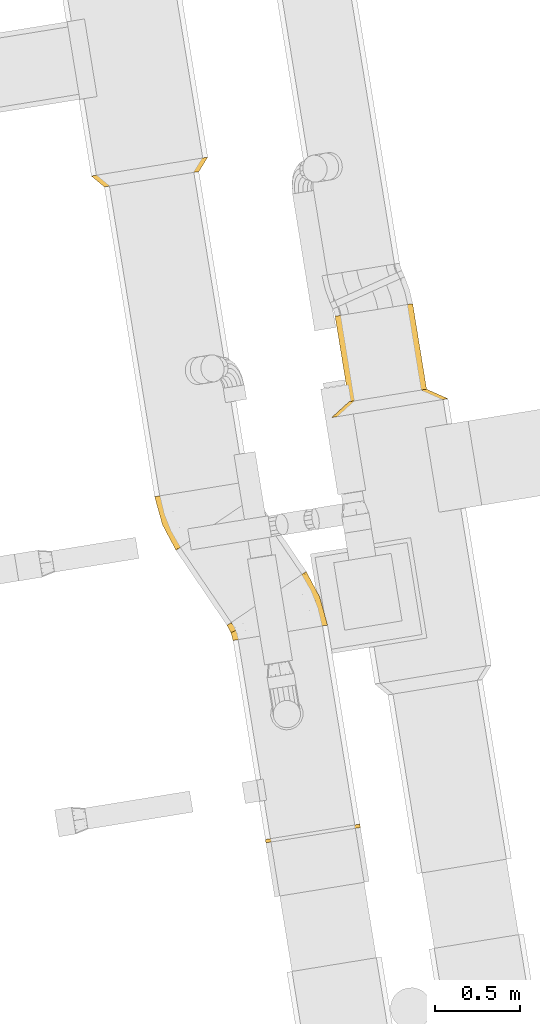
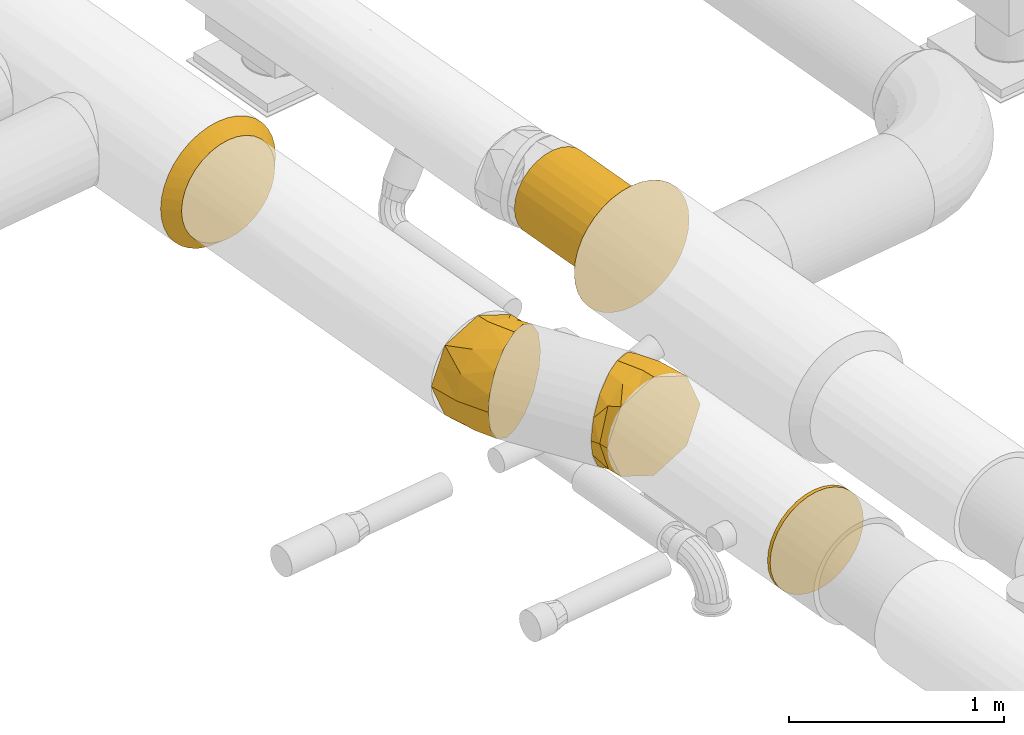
# One storey, part 9 of 39: 6 coverings.
"""IFC2X3 building model written with IfcOpenShell, lengths in millimetres."""

from ifc_helpers import new_model, entity, si_unit, converted_unit, derived_unit, direction, frame, origin, origin_with_axes, place, context, subcontext, project, spatial, faceted_brep, type_object, element, save


model = new_model("IFC2X3")

# Units and contexts
plan_context = context("Plan", 3, precision=1e-05, world=origin_with_axes())
model_context = context("Model", 3, precision=0.01, world=origin(), true_north=direction((6.12323399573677e-17, 1.0)))
body_context = subcontext(model_context, "Body", "Model", "MODEL_VIEW")
ifc_project = project(units=[converted_unit("PLANEANGLEUNIT", "DEGREE", entity("IfcPositiveLengthMeasure", 0.0174532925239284), si_unit("PLANEANGLEUNIT", "RADIAN"), dimensions=[0, 0, 0, 0, 0, 0, 0]), si_unit("AREAUNIT", "SQUARE_METRE"), si_unit("LENGTHUNIT", "METRE", prefix="MILLI"), si_unit("MASSUNIT", "GRAM", prefix="KILO"), si_unit("POWERUNIT", "WATT"), si_unit("PRESSUREUNIT", "PASCAL", prefix="KILO"), si_unit("FORCEUNIT", "NEWTON", prefix="KILO"), si_unit("ELECTRICVOLTAGEUNIT", "VOLT"), si_unit("ELECTRICCURRENTUNIT", "AMPERE"), si_unit("THERMODYNAMICTEMPERATUREUNIT", "DEGREE_CELSIUS"), si_unit("TIMEUNIT", "SECOND"), si_unit("VOLUMEUNIT", "CUBIC_METRE"), derived_unit("LINEARVELOCITYUNIT", [(si_unit("LENGTHUNIT", "METRE"), 1), (si_unit("TIMEUNIT", "SECOND"), -1)]), derived_unit("VOLUMETRICFLOWRATEUNIT", [(si_unit("VOLUMEUNIT", "CUBIC_METRE"), 1), (si_unit("TIMEUNIT", "SECOND"), -1)]), derived_unit("THERMALTRANSMITTANCEUNIT", [(si_unit("POWERUNIT", "WATT"), 1), (si_unit("THERMODYNAMICTEMPERATUREUNIT", "KELVIN"), -1), (si_unit("AREAUNIT", "SQUARE_METRE"), -1)]), derived_unit("SOUNDPRESSUREUNIT", [(si_unit("PRESSUREUNIT", "PASCAL"), 1)])], contexts=[model_context, plan_context])

# Site, building, storey
site_placement = place(None, frame((-0.00071070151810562, 0.00438415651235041, 0.0), z_axis=(0.0, 0.0, 1.0), x_axis=(-0.160236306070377, 0.987078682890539, 0.0)))
site = spatial("IfcSite", under=ifc_project, at=site_placement, Name="Default", CompositionType="ELEMENT")
building_placement = place(site_placement, origin_with_axes())
building = spatial("IfcBuilding", under=site, at=building_placement, CompositionType="ELEMENT")
storey_placement = place(building_placement, frame((0.0, 0.0, 58999.9999999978), z_axis=(0.0, 0.0, 1.0), x_axis=(1.0, 0.0, 0.0)))
storey = spatial("IfcBuildingStorey", under=building, at=storey_placement, Name="Nivå F", CompositionType="ELEMENT", Elevation=58999.9999999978)

# Coverings
covering_type_1 = type_object("IfcCoveringType", Name="Duct Insulation:MuT030", PredefinedType="INSULATION")
covering_1_placement = place(storey_placement, frame((773703.610474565, -503686.603887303, 2783.40426923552), z_axis=(0.0, 0.0, 1.0), x_axis=(1.0, 0.0, 0.0)))
element("IfcCovering", 1, at=covering_1_placement, inside=storey, type_object=covering_type_1, Name="Duct Insulation:MuT030", ObjectType="Duct Insulation:MuT030", PredefinedType="INSULATION", context=body_context, shape_type="Brep", body=[
    faceted_brep([(75.0, 346.595272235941, 576.595730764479), (75.0, 295.415457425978, 570.829150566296), (75.0, 246.802012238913, 553.818570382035), (75.0, 203.192617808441, 526.41697173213), (75.0, 166.774031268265, 489.998385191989), (75.0, 139.372432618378, 446.388990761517), (75.0, 122.361852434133, 397.775545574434), (75.0, 116.595272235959, 346.59573076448), (75.0, 122.361852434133, 295.415915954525), (75.0, 139.372432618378, 246.802470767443), (75.0, 166.774031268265, 203.19307633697), (75.0, 203.192617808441, 166.774489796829), (75.0, 246.802012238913, 139.372891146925), (75.0, 295.415457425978, 122.362310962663), (75.0, 346.595272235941, 116.59573076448), (75.0, 397.775087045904, 122.362310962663), (75.0, 446.38853223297, 139.372891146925), (75.0, 489.997926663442, 166.774489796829), (75.0, 526.416513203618, 203.19307633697), (75.0, 553.818111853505, 246.802470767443), (75.0, 570.828692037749, 295.415915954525), (75.0, 576.595272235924, 346.59573076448), (75.0, 570.828692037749, 397.775545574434), (75.0, 553.818111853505, 446.388990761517), (75.0, 526.416513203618, 489.998385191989), (75.0, 489.997926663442, 526.41697173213), (75.0, 446.38853223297, 553.818570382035), (75.0, 397.775087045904, 570.829150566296), (0.0, 464.592221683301, 670.789226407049), (0.0, 519.095272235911, 645.374036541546), (0.0, 568.356997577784, 610.880605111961), (0.0, 610.880605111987, 568.356997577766), (0.0, 645.374036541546, 519.095272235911), (0.0, 670.789226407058, 464.592221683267), (0.0, 686.353947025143, 406.503893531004), (0.0, 691.59527223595, 346.595272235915), (0.0, 686.353947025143, 286.686650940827), (0.0, 670.789226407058, 228.598322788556), (0.0, 645.374036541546, 174.095272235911), (0.0, 610.880605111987, 124.833546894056), (0.0, 568.356997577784, 82.3099393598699), (0.0, 519.095272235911, 47.8165079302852), (0.0, 464.592221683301, 22.4013180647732), (0.0, 406.503893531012, 6.83659744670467), (0.0, 346.595272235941, 1.5952722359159), (0.0, 286.686650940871, 6.83659744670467), (0.0, 228.598322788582, 22.4013180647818), (0.0, 174.095272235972, 47.8165079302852), (0.0, 124.833546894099, 82.3099393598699), (0.0, 82.3099393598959, 124.833546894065), (0.0, 47.8165079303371, 174.09527223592), (0.0, 22.4013180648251, 228.598322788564), (0.0, 6.83659744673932, 286.686650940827), (0.0, 1.59527223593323, 346.595272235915), (0.0, 6.83659744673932, 406.503893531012), (0.0, 22.4013180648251, 464.592221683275), (0.0, 47.8165079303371, 519.09527223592), (0.0, 82.3099393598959, 568.356997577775), (0.0, 124.833546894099, 610.880605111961), (0.0, 174.095272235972, 645.374036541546), (0.0, 228.598322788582, 670.789226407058), (0.0, 286.686650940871, 686.353947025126), (0.0, 346.595272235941, 691.595272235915), (0.0, 406.503893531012, 686.353947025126), (34.0057165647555, 53.7373709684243, 346.595480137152), (35.9502469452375, 66.5962773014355, 271.569995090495), (38.7397940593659, 144.646300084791, 144.646526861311), (39.1556552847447, 107.644195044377, 191.336561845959), (34.0057102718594, 346.595272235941, 53.7375692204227), (35.9502546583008, 271.569773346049, 66.5965098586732), (39.1556623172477, 191.336346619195, 107.644431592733), (35.9502469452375, 421.62076917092, 66.5964970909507), (38.7397940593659, 548.544254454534, 144.646536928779), (39.1556552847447, 501.854222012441, 107.644434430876), (34.0057102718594, 639.453183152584, 346.595480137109), (35.9502546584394, 626.594254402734, 271.569993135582), (39.1556623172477, 585.546352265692, 191.336586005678), (35.9502469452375, 626.594267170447, 421.620988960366), (38.7397940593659, 548.544244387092, 548.544491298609), (39.1556552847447, 585.546349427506, 501.854461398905), (34.0057763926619, 346.595272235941, 639.453289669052), (35.9502546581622, 421.620771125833, 626.594474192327), (39.1556623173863, 501.854197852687, 585.546591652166), (35.9502469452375, 271.569775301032, 626.594486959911), (38.7397940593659, 144.64629001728, 548.544481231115), (39.1556552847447, 191.336322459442, 585.546588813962), (35.9502546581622, 66.5962900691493, 421.620990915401), (39.1556623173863, 107.64419220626, 501.854437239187)], [[[0, 1, 2, 3, 4, 5, 6, 7, 8, 9, 10, 11, 12, 13, 14, 15, 16, 17, 18, 19, 20, 21, 22, 23, 24, 25, 26, 27]], [[28, 29, 30, 31, 32, 33, 34, 35, 36, 37, 38, 39, 40, 41, 42, 43, 44, 45, 46, 47, 48, 49, 50, 51, 52, 53, 54, 55, 56, 57, 58, 59, 60, 61, 62, 63]], [[64, 52, 65]], [[52, 51, 65]], [[66, 67, 49]], [[66, 10, 67]], [[45, 44, 68]], [[11, 10, 66]], [[64, 65, 8]], [[68, 13, 69]], [[51, 67, 65]], [[49, 67, 50]], [[64, 53, 52]], [[9, 8, 65]], [[64, 8, 7]], [[12, 69, 13]], [[48, 66, 49]], [[65, 67, 9]], [[46, 69, 70]], [[70, 47, 46]], [[46, 45, 69]], [[10, 9, 67]], [[68, 14, 13]], [[48, 47, 70]], [[66, 48, 70]], [[11, 66, 70]], [[70, 69, 12]], [[51, 50, 67]], [[12, 11, 70]], [[68, 69, 45]], [[68, 43, 71]], [[43, 42, 71]], [[72, 73, 40]], [[72, 17, 73]], [[36, 35, 74]], [[18, 17, 72]], [[68, 71, 15]], [[74, 20, 75]], [[42, 73, 71]], [[40, 73, 41]], [[68, 44, 43]], [[16, 15, 71]], [[68, 15, 14]], [[19, 75, 20]], [[39, 72, 40]], [[71, 73, 16]], [[37, 75, 76]], [[76, 38, 37]], [[37, 36, 75]], [[17, 16, 73]], [[74, 21, 20]], [[39, 38, 76]], [[72, 39, 76]], [[18, 72, 76]], [[76, 75, 19]], [[42, 41, 73]], [[19, 18, 76]], [[74, 75, 36]], [[74, 34, 77]], [[34, 33, 77]], [[78, 79, 31]], [[78, 24, 79]], [[63, 62, 80]], [[25, 24, 78]], [[74, 77, 22]], [[80, 27, 81]], [[33, 79, 77]], [[31, 79, 32]], [[74, 35, 34]], [[23, 22, 77]], [[74, 22, 21]], [[26, 81, 27]], [[30, 78, 31]], [[77, 79, 23]], [[28, 81, 82]], [[82, 29, 28]], [[28, 63, 81]], [[24, 23, 79]], [[80, 0, 27]], [[30, 29, 82]], [[78, 30, 82]], [[25, 78, 82]], [[82, 81, 26]], [[33, 32, 79]], [[26, 25, 82]], [[80, 81, 63]], [[80, 61, 83]], [[61, 60, 83]], [[84, 85, 58]], [[84, 3, 85]], [[54, 53, 64]], [[4, 3, 84]], [[80, 83, 1]], [[64, 6, 86]], [[60, 85, 83]], [[58, 85, 59]], [[80, 62, 61]], [[2, 1, 83]], [[80, 1, 0]], [[5, 86, 6]], [[57, 84, 58]], [[83, 85, 2]], [[55, 86, 87]], [[87, 56, 55]], [[55, 54, 86]], [[3, 2, 85]], [[64, 7, 6]], [[57, 56, 87]], [[84, 57, 87]], [[4, 84, 87]], [[87, 86, 5]], [[60, 59, 85]], [[5, 4, 87]], [[64, 86, 54]]]),
])
covering_2_placement = place(storey_placement, frame((773778.610474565, -503571.603887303, 2898.40472776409), z_axis=(0.0, 0.0, 1.0), x_axis=(1.0, 0.0, 0.0)))
element("IfcCovering", 2, at=covering_2_placement, inside=storey, type_object=covering_type_1, Name="Duct Insulation:MuT030", ObjectType="Duct Insulation:MuT030", PredefinedType="INSULATION", context=body_context, shape_type="Brep", body=[
    faceted_brep([(0.0, 24.3724326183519, 131.802012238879), (0.0, 7.36185243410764, 180.415457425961), (0.0, 1.59527223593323, 231.595272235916), (0.0, 7.36185243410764, 282.77508704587), (0.0, 24.3724326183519, 331.388532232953), (0.0, 51.774031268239, 374.997926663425), (0.0, 88.1926178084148, 411.416513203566), (0.0, 131.802012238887, 438.818111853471), (0.0, 180.415457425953, 455.828692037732), (0.0, 231.595272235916, 461.595272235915), (0.0, 282.775087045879, 455.828692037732), (0.0, 331.388532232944, 438.818111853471), (0.0, 374.997926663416, 411.416513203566), (0.0, 411.416513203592, 374.997926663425), (0.0, 438.818111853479, 331.388532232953), (0.0, 455.828692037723, 282.77508704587), (0.0, 461.595272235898, 231.595272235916), (0.0, 455.828692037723, 180.415457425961), (0.0, 438.818111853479, 131.802012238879), (0.0, 411.416513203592, 88.1926178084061), (0.0, 374.997926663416, 51.774031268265), (0.0, 331.388532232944, 24.3724326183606), (0.0, 282.775087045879, 7.36185243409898), (0.0, 231.595272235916, 1.5952722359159), (0.0, 180.415457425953, 7.36185243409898), (0.0, 131.802012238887, 24.3724326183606), (0.0, 88.1926178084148, 51.774031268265), (0.0, 51.774031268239, 88.1926178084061), (506.653576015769, 88.1926178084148, 51.774031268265), (506.653576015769, 131.802012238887, 24.3724326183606), (506.653576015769, 180.415457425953, 7.36185243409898), (506.653576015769, 231.595272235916, 1.5952722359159), (506.653576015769, 282.775087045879, 7.36185243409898), (506.653576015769, 331.388532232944, 24.3724326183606), (506.653576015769, 374.997926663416, 51.774031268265), (506.653576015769, 411.416513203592, 88.1926178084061), (506.653576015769, 438.818111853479, 131.802012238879), (506.653576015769, 455.828692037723, 180.415457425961), (506.653576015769, 461.595272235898, 231.595272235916), (506.653576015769, 455.828692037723, 282.77508704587), (506.653576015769, 438.818111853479, 331.388532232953), (506.653576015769, 411.416513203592, 374.997926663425), (506.653576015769, 374.997926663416, 411.416513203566), (506.653576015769, 331.388532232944, 438.818111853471), (506.653576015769, 282.775087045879, 455.828692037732), (506.653576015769, 231.595272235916, 461.595272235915), (506.653576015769, 180.415457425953, 455.828692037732), (506.653576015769, 131.802012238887, 438.818111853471), (506.653576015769, 88.1926178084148, 411.416513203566), (506.653576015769, 51.774031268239, 374.997926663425), (506.653576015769, 24.3724326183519, 331.388532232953), (506.653576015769, 7.36185243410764, 282.77508704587), (506.653576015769, 1.59527223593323, 231.595272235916), (506.653576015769, 7.36185243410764, 180.415457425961), (506.653576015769, 24.3724326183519, 131.802012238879), (506.653576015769, 51.774031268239, 88.1926178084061)], [[[0, 1, 2, 3, 4, 5, 6, 7, 8, 9, 10, 11, 12, 13, 14, 15, 16, 17, 18, 19, 20, 21, 22, 23, 24, 25, 26, 27]], [[28, 29, 30, 31, 32, 33, 34, 35, 36, 37, 38, 39, 40, 41, 42, 43, 44, 45, 46, 47, 48, 49, 50, 51, 52, 53, 54, 55]], [[38, 37, 17, 16]], [[37, 36, 18, 17]], [[19, 18, 36, 35]], [[35, 34, 20, 19]], [[21, 20, 34, 33]], [[22, 21, 33, 32]], [[23, 22, 32, 31]], [[24, 23, 31, 30]], [[25, 24, 30, 29]], [[26, 25, 29, 28]], [[28, 55, 27, 26]], [[0, 27, 55, 54]], [[1, 0, 54, 53]], [[2, 1, 53, 52]], [[3, 2, 52, 51]], [[4, 3, 51, 50]], [[5, 4, 50, 49]], [[49, 48, 6, 5]], [[7, 6, 48, 47]], [[8, 7, 47, 46]], [[9, 8, 46, 45]], [[10, 9, 45, 44]], [[11, 10, 44, 43]], [[12, 11, 43, 42]], [[42, 41, 13, 12]], [[14, 13, 41, 40]], [[15, 14, 40, 39]], [[16, 15, 39, 38]]]),
])
covering_type_2 = type_object("IfcCoveringType", Name="Duct Insulation:EI 60-30", PredefinedType="INSULATION")
covering_3_placement = place(storey_placement, frame((771309.369644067, -502778.429977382, 2848.40472776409), z_axis=(0.0, 0.0, 1.0), x_axis=(1.0, 0.0, 0.0)))
element("IfcCovering", 3, at=covering_3_placement, inside=storey, type_object=covering_type_2, Name="Duct Insulation:EI 60-30", ObjectType="Duct Insulation:EI 60-30", PredefinedType="INSULATION", context=body_context, shape_type="Brep", body=[
    faceted_brep([(20.0, 388.746633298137, 22.9090031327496), (20.0, 437.154937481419, 48.783780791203), (20.0, 479.585170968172, 83.6053735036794), (20.0, 514.406763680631, 126.035606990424), (20.0, 540.281541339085, 174.443911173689), (20.0, 556.215150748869, 226.969982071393), (20.0, 561.595272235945, 281.595272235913), (20.0, 556.215150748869, 336.220562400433), (20.0, 540.281541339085, 388.746633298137), (20.0, 514.406763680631, 437.154937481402), (20.0, 479.585170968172, 479.585170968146), (20.0, 437.154937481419, 514.406763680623), (20.0, 388.746633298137, 540.281541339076), (20.0, 336.220562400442, 556.215150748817), (20.0, 281.595272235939, 561.59527223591), (20.0, 226.969982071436, 556.215150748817), (20.0, 174.443911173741, 540.281541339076), (20.0, 126.035606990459, 514.406763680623), (20.0, 83.6053735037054, 479.585170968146), (20.0, 48.7837807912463, 437.154937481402), (20.0, 22.9090031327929, 388.746633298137), (20.0, 6.97539372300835, 336.220562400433), (20.0, 1.59527223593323, 281.595272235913), (20.0, 6.97539372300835, 226.969982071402), (20.0, 22.9090031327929, 174.443911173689), (20.0, 48.7837807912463, 126.035606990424), (20.0, 83.6053735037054, 83.6053735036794), (20.0, 126.035606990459, 48.783780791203), (20.0, 174.443911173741, 22.9090031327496), (20.0, 226.969982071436, 6.97539372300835), (20.0, 281.595272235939, 1.5952722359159), (20.0, 336.220562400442, 6.97539372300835), (0.0, 388.746633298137, 540.281541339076), (0.0, 437.154937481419, 514.406763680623), (0.0, 479.585170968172, 479.585170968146), (0.0, 514.406763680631, 437.154937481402), (0.0, 540.281541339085, 388.746633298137), (0.0, 556.215150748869, 336.220562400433), (0.0, 561.595272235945, 281.595272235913), (0.0, 556.215150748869, 226.969982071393), (0.0, 540.281541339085, 174.443911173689), (0.0, 514.406763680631, 126.035606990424), (0.0, 479.585170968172, 83.6053735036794), (0.0, 437.154937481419, 48.783780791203), (0.0, 388.746633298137, 22.9090031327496), (0.0, 336.220562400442, 6.97539372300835), (0.0, 281.595272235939, 1.5952722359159), (0.0, 226.969982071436, 6.97539372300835), (0.0, 174.443911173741, 22.9090031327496), (0.0, 126.035606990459, 48.783780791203), (0.0, 83.6053735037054, 83.6053735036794), (0.0, 48.7837807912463, 126.035606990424), (0.0, 22.9090031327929, 174.443911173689), (0.0, 6.97539372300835, 226.969982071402), (0.0, 1.59527223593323, 281.595272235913), (0.0, 6.97539372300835, 336.220562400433), (0.0, 22.9090031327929, 388.746633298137), (0.0, 48.7837807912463, 437.154937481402), (0.0, 83.6053735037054, 479.585170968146), (0.0, 126.035606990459, 514.406763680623), (0.0, 174.443911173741, 540.281541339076), (0.0, 226.969982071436, 556.215150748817), (0.0, 281.595272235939, 561.59527223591), (0.0, 336.220562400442, 556.215150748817)], [[[0, 1, 2, 3, 4, 5, 6, 7, 8, 9, 10, 11, 12, 13, 14, 15, 16, 17, 18, 19, 20, 21, 22, 23, 24, 25, 26, 27, 28, 29, 30, 31]], [[32, 33, 34, 35, 36, 37, 38, 39, 40, 41, 42, 43, 44, 45, 46, 47, 48, 49, 50, 51, 52, 53, 54, 55, 56, 57, 58, 59, 60, 61, 62, 63]], [[7, 6, 38, 37]], [[37, 36, 8, 7]], [[35, 9, 8, 36]], [[35, 34, 10, 9]], [[11, 33, 32, 12]], [[12, 32, 63, 13]], [[13, 63, 62, 14]], [[34, 33, 11, 10]], [[15, 14, 62, 61]], [[61, 60, 16, 15]], [[59, 17, 16, 60]], [[59, 58, 18, 17]], [[20, 56, 55, 21]], [[21, 55, 54, 22]], [[19, 18, 58, 57]], [[57, 56, 20, 19]], [[23, 22, 54, 53]], [[53, 52, 24, 23]], [[51, 25, 24, 52]], [[25, 51, 50, 26]], [[48, 47, 29, 28]], [[29, 47, 46, 30]], [[27, 26, 50, 49]], [[49, 48, 28, 27]], [[31, 30, 46, 45]], [[45, 44, 0, 31]], [[43, 1, 0, 44]], [[1, 43, 42, 2]], [[40, 39, 5, 4]], [[5, 39, 38, 6]], [[3, 41, 40, 4]], [[41, 3, 2, 42]]]),
])
covering_4_placement = place(storey_placement, frame((772507.276642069, -502778.429977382, 2848.40472776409), z_axis=(0.0, 0.0, 1.0), x_axis=(1.0, 0.0, 0.0)))
element("IfcCovering", 4, at=covering_4_placement, inside=storey, type_object=covering_type_2, Name="Duct Insulation:EI 60-30", ObjectType="Duct Insulation:EI 60-30", PredefinedType="INSULATION", context=body_context, shape_type="Brep", body=[
    faceted_brep([(94.5712898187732, 582.207559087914, 281.595272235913), (104.802207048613, 560.267286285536, 395.484094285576), (133.725641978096, 498.24077991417, 489.679118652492), (176.340060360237, 406.853864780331, 547.89309586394), (212.90440310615, 328.441378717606, 561.59527223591), (261.03589911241, 225.223052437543, 537.386859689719), (300.844436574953, 139.853368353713, 468.948182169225), (325.446726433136, 87.0935874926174, 368.113877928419), (331.237516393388, 74.6751983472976, 281.595272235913), (321.006599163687, 96.6154711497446, 167.70645018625), (292.083164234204, 158.641977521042, 73.5114258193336), (249.468745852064, 250.02889265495, 15.2974486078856), (212.90440310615, 328.441378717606, 1.5952722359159), (164.772907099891, 431.659704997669, 25.8036847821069), (124.964369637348, 517.029389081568, 94.2423623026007), (100.362079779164, 569.789169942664, 195.076666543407), (1.59527223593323, 83.6053735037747, 479.585170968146), (1.59527223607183, 192.341149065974, 524.625003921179), (1.59527223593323, 281.595272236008, 561.59527223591), (1.59527223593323, 380.59022160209, 520.590221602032), (1.59527223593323, 479.585170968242, 479.585170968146), (1.59527223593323, 509.851643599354, 406.515442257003), (1.59527223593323, 561.595272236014, 281.595272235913), (1.59527223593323, 509.851643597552, 156.675102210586), (1.59527223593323, 479.585170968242, 83.6053735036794), (1.59527223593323, 380.59022160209, 42.6003228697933), (1.59527223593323, 281.595272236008, 1.5952722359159), (1.59527223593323, 192.34114906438, 38.5655405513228), (1.59527223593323, 83.6053735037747, 83.6053735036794), (1.59527223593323, 42.6003228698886, 182.600322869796), (1.59527223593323, 1.59527223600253, 281.595272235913), (1.59527223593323, 42.6003228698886, 380.59022160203), (170.418171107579, 20.0843866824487, 281.595272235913), (157.317596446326, 51.3682686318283, 414.130284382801), (139.713170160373, 133.885836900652, 509.779038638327), (74.0612018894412, 286.874452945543, 561.59527223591), (132.035441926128, 304.230801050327, 561.59527223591), (79.0057524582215, 404.271907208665, 536.971202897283), (65.1738682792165, 504.421567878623, 460.213903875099), (49.2119873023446, 566.81015066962, 281.595272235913), (61.2711108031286, 504.119595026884, 103.644905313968), (67.4867023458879, 406.03428430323, 28.0016962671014), (132.035441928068, 304.230801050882, 1.5952722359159), (74.0612018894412, 286.874452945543, 1.5952722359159), (148.121027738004, 147.950465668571, 45.3958700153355), (164.547701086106, 68.262486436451, 124.397227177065)], [[[0, 1, 2, 3, 4, 5, 6, 7, 8, 9, 10, 11, 12, 13, 14, 15]], [[16, 17, 18, 19, 20, 21, 22, 23, 24, 25, 26, 27, 28, 29, 30, 31]], [[31, 32, 33]], [[17, 34, 35]], [[35, 18, 17]], [[34, 17, 16]], [[5, 35, 34]], [[16, 33, 34]], [[33, 7, 6]], [[32, 7, 33]], [[34, 6, 5]], [[5, 4, 36, 35]], [[31, 30, 32]], [[33, 16, 31]], [[8, 7, 32]], [[6, 34, 33]], [[19, 35, 37]], [[20, 37, 38]], [[39, 22, 21]], [[38, 21, 20]], [[38, 37, 2]], [[2, 1, 38]], [[37, 36, 3]], [[37, 20, 19]], [[36, 4, 3]], [[3, 2, 37]], [[38, 1, 39]], [[1, 0, 39]], [[35, 19, 18]], [[21, 38, 39]], [[37, 35, 36]], [[14, 40, 15]], [[41, 13, 42]], [[43, 25, 41]], [[13, 12, 42]], [[24, 40, 41]], [[41, 14, 13]], [[39, 23, 22]], [[0, 15, 39]], [[40, 39, 15]], [[40, 23, 39]], [[14, 41, 40]], [[43, 41, 42]], [[25, 24, 41]], [[24, 23, 40]], [[25, 43, 26]], [[10, 44, 11]], [[9, 32, 45]], [[32, 29, 45]], [[27, 44, 28]], [[44, 43, 11]], [[43, 27, 26]], [[27, 43, 44]], [[29, 28, 45]], [[9, 8, 32]], [[28, 44, 45]], [[10, 45, 44]], [[10, 9, 45]], [[29, 32, 30]], [[11, 43, 42, 12]]]),
])
covering_5_placement = place(storey_placement, frame((773081.282261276, -502481.042264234, 2848.43888074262), z_axis=(0.0, 0.0, 1.0), x_axis=(1.0, 0.0, 0.0)))
element("IfcCovering", 5, at=covering_5_placement, inside=storey, type_object=covering_type_2, Name="Duct Insulation:EI 60-30", ObjectType="Duct Insulation:EI 60-30", PredefinedType="INSULATION", context=body_context, shape_type="Brep", body=[
    faceted_brep([(238.261498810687, 1.59527223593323, 281.595272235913), (228.030581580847, 23.5355450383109, 395.484094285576), (199.107146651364, 85.5620514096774, 489.679118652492), (156.492728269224, 176.948966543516, 547.89309586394), (119.92838552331, 255.361452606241, 561.59527223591), (71.7968895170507, 358.579778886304, 537.386859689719), (31.9883520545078, 443.949462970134, 468.948182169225), (7.3860621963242, 496.70924383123, 368.113877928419), (1.59527223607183, 509.12763297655, 281.595272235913), (11.8261894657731, 487.187360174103, 167.70645018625), (40.7496243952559, 425.160853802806, 73.5114258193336), (83.3640427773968, 333.773938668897, 15.2974486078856), (119.92838552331, 255.361452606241, 1.5952722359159), (168.05988152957, 152.143126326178, 25.8036847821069), (207.868418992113, 66.7734422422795, 94.2423623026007), (232.470708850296, 14.0136613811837, 195.076666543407), (331.237516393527, 500.197457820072, 479.585170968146), (331.237516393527, 391.461682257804, 524.625003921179), (331.237516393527, 302.207559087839, 561.59527223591), (331.237516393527, 203.212609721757, 520.590221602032), (331.237516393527, 104.217660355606, 479.585170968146), (331.237516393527, 73.9511877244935, 406.515442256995), (331.237516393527, 22.2075590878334, 281.595272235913), (331.237516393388, 73.9511877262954, 156.675102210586), (331.237516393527, 104.217660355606, 83.6053735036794), (331.237516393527, 203.212609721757, 42.6003228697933), (331.237516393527, 302.207559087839, 1.5952722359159), (331.237516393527, 391.461682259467, 38.5655405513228), (331.237516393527, 500.197457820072, 83.6053735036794), (331.237516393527, 541.202508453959, 182.600322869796), (331.237516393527, 582.207559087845, 281.595272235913), (331.237516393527, 541.202508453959, 380.59022160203), (162.414617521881, 563.718444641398, 281.595272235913), (175.515192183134, 532.434562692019, 414.130284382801), (193.119618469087, 449.916994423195, 509.779038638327), (258.771586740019, 296.928378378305, 561.59527223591), (200.797346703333, 279.57203027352, 561.59527223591), (253.827036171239, 179.530924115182, 536.971202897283), (267.658920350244, 79.3812634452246, 460.213903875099), (283.620801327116, 16.9926806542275, 281.595272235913), (271.561677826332, 79.6832362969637, 103.644905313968), (265.346086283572, 177.768547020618, 28.0016962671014), (200.797346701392, 279.572030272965, 1.5952722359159), (258.771586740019, 296.928378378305, 1.5952722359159), (184.711760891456, 435.852365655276, 45.3958700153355), (168.285087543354, 515.540344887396, 124.397227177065)], [[[0, 1, 2, 3, 4, 5, 6, 7, 8, 9, 10, 11, 12, 13, 14, 15]], [[16, 17, 18, 19, 20, 21, 22, 23, 24, 25, 26, 27, 28, 29, 30, 31]], [[31, 32, 33]], [[17, 34, 35]], [[35, 18, 17]], [[34, 17, 16]], [[5, 35, 34]], [[16, 33, 34]], [[33, 7, 6]], [[32, 7, 33]], [[34, 6, 5]], [[5, 4, 36, 35]], [[31, 30, 32]], [[33, 16, 31]], [[8, 7, 32]], [[6, 34, 33]], [[19, 35, 37]], [[20, 37, 38]], [[39, 22, 21]], [[38, 21, 20]], [[38, 37, 2]], [[2, 1, 38]], [[37, 36, 3]], [[37, 20, 19]], [[36, 4, 3]], [[3, 2, 37]], [[38, 1, 39]], [[1, 0, 39]], [[35, 19, 18]], [[21, 38, 39]], [[37, 35, 36]], [[14, 40, 15]], [[41, 13, 42]], [[43, 25, 41]], [[13, 12, 42]], [[24, 40, 41]], [[41, 14, 13]], [[39, 23, 22]], [[0, 15, 39]], [[40, 39, 15]], [[40, 23, 39]], [[14, 41, 40]], [[43, 41, 42]], [[25, 24, 41]], [[24, 23, 40]], [[25, 43, 26]], [[10, 44, 11]], [[9, 32, 45]], [[32, 29, 45]], [[27, 44, 28]], [[44, 43, 11]], [[43, 27, 26]], [[27, 43, 44]], [[29, 28, 45]], [[9, 8, 32]], [[28, 44, 45]], [[10, 45, 44]], [[10, 9, 45]], [[29, 32, 30]], [[11, 43, 42, 12]]]),
])
covering_6_placement = place(storey_placement, frame((775248.610474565, -502525.429977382, 2783.43888074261), z_axis=(0.0, 0.0, 1.0), x_axis=(1.0, 0.0, 0.0)))
element("IfcCovering", 6, at=covering_6_placement, inside=storey, type_object=covering_type_2, Name="Duct Insulation:EI 60-30", ObjectType="Duct Insulation:EI 60-30", PredefinedType="INSULATION", context=body_context, shape_type="Brep", body=[
    faceted_brep([(75.0, 406.503893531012, 686.353947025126), (75.0, 346.595272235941, 691.595272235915), (75.0, 286.686650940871, 686.353947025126), (75.0, 228.598322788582, 670.789226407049), (75.0, 174.095272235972, 645.374036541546), (75.0, 124.833546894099, 610.880605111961), (75.0, 82.3099393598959, 568.356997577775), (75.0, 47.8165079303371, 519.09527223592), (75.0, 22.4013180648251, 464.592221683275), (75.0, 6.83659744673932, 406.503893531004), (75.0, 1.59527223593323, 346.595272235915), (75.0, 6.83659744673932, 286.686650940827), (75.0, 22.4013180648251, 228.598322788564), (75.0, 47.8165079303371, 174.09527223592), (75.0, 82.3099393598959, 124.833546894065), (75.0, 124.833546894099, 82.3099393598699), (75.0, 174.095272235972, 47.8165079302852), (75.0, 228.598322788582, 22.4013180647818), (75.0, 286.686650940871, 6.83659744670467), (75.0, 346.595272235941, 1.5952722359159), (75.0, 406.503893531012, 6.83659744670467), (75.0, 464.592221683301, 22.4013180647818), (75.0, 519.095272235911, 47.8165079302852), (75.0, 568.356997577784, 82.3099393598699), (75.0, 610.880605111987, 124.833546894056), (75.0, 645.374036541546, 174.09527223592), (75.0, 670.789226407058, 228.598322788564), (75.0, 686.353947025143, 286.686650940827), (75.0, 691.59527223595, 346.595272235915), (75.0, 686.353947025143, 406.503893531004), (75.0, 670.789226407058, 464.592221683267), (75.0, 645.374036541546, 519.095272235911), (75.0, 610.880605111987, 568.356997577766), (75.0, 568.356997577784, 610.880605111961), (75.0, 519.095272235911, 645.374036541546), (75.0, 464.592221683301, 670.789226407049), (0.0, 453.746633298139, 605.28154133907), (0.0, 502.154937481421, 579.406763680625), (0.0, 544.585170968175, 544.585170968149), (0.0, 579.406763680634, 502.154937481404), (0.0, 605.281541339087, 453.746633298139), (0.0, 621.215150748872, 401.220562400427), (0.0, 626.595272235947, 346.595272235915), (0.0, 621.215150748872, 291.969982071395), (0.0, 605.281541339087, 239.443911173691), (0.0, 579.406763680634, 191.035606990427), (0.0, 544.585170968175, 148.605373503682), (0.0, 502.154937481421, 113.783780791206), (0.0, 453.746633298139, 87.9090031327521), (0.0, 401.220562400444, 71.9753937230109), (0.0, 346.595272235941, 66.5952722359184), (0.0, 291.969982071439, 71.9753937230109), (0.0, 239.443911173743, 87.9090031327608), (0.0, 191.035606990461, 113.783780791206), (0.0, 148.605373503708, 148.605373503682), (0.0, 113.783780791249, 191.035606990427), (0.0, 87.9090031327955, 239.443911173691), (0.0, 71.9753937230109, 291.969982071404), (0.0, 66.5952722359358, 346.595272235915), (0.0, 71.9753937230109, 401.220562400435), (0.0, 87.9090031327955, 453.746633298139), (0.0, 113.783780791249, 502.154937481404), (0.0, 148.605373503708, 544.585170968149), (0.0, 191.035606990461, 579.406763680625), (0.0, 239.443911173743, 605.281541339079), (0.0, 291.969982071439, 621.21515074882), (0.0, 346.595272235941, 626.595272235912), (0.0, 401.220562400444, 621.21515074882)], [[[0, 1, 2, 3, 4, 5, 6, 7, 8, 9, 10, 11, 12, 13, 14, 15, 16, 17, 18, 19, 20, 21, 22, 23, 24, 25, 26, 27, 28, 29, 30, 31, 32, 33, 34, 35]], [[36, 37, 38, 39, 40, 41, 42, 43, 44, 45, 46, 47, 48, 49, 50, 51, 52, 53, 54, 55, 56, 57, 58, 59, 60, 61, 62, 63, 64, 65, 66, 67]], [[11, 58, 57]], [[57, 56, 12]], [[55, 13, 56]], [[10, 58, 11]], [[57, 12, 11]], [[13, 12, 56]], [[55, 14, 13]], [[55, 54, 14]], [[15, 54, 53]], [[17, 52, 51]], [[53, 52, 16]], [[18, 51, 50]], [[15, 53, 16]], [[52, 17, 16]], [[51, 18, 17]], [[19, 18, 50]], [[54, 15, 14]], [[20, 50, 49]], [[49, 48, 21]], [[47, 22, 48]], [[19, 50, 20]], [[49, 21, 20]], [[22, 21, 48]], [[47, 23, 22]], [[47, 46, 23]], [[24, 46, 45]], [[26, 44, 43]], [[45, 44, 25]], [[27, 43, 42]], [[24, 45, 25]], [[44, 26, 25]], [[43, 27, 26]], [[28, 27, 42]], [[46, 24, 23]], [[29, 42, 41]], [[41, 40, 30]], [[39, 31, 40]], [[28, 42, 29]], [[41, 30, 29]], [[31, 30, 40]], [[39, 32, 31]], [[39, 38, 32]], [[33, 38, 37]], [[35, 36, 67]], [[37, 36, 34]], [[0, 67, 66]], [[33, 37, 34]], [[36, 35, 34]], [[67, 0, 35]], [[1, 0, 66]], [[38, 33, 32]], [[2, 66, 65]], [[65, 64, 3]], [[63, 4, 64]], [[1, 66, 2]], [[65, 3, 2]], [[4, 3, 64]], [[63, 5, 4]], [[63, 62, 5]], [[6, 62, 61]], [[8, 60, 59]], [[61, 60, 7]], [[9, 59, 58]], [[6, 61, 7]], [[60, 8, 7]], [[59, 9, 8]], [[10, 9, 58]], [[62, 6, 5]]]),
])

save(model, "model.ifc")
